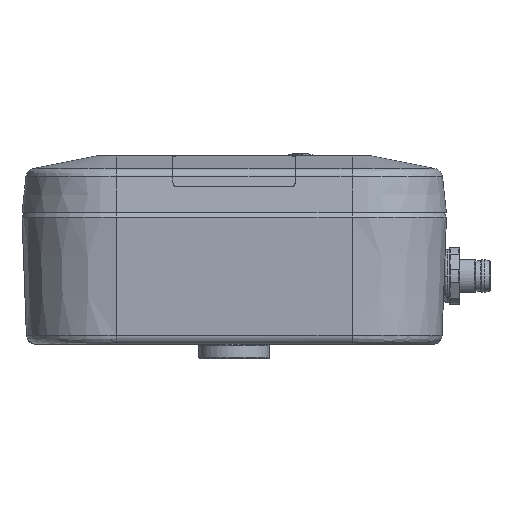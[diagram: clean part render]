
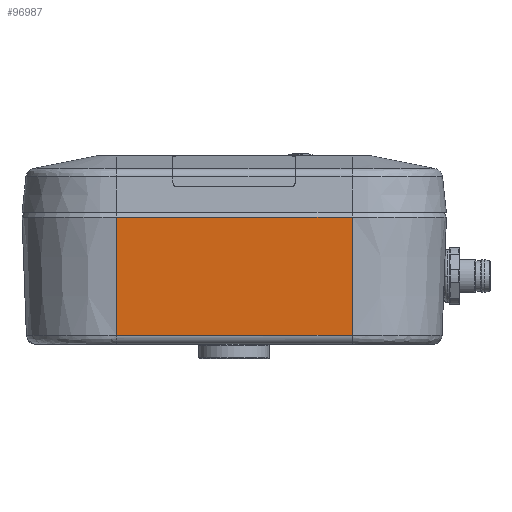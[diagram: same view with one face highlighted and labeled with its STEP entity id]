
A CAD part, left-side view. The second image highlights one B-rep face of the part: STEP entity #96987.
In plain terms, the highlighted planar face has unit normal (-0.999, 0, -0.037).
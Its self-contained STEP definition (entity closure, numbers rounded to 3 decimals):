
#805 = CARTESIAN_POINT ( 'NONE',  ( -65.022, -15.049, 7.268 ) ) ;
#6972 = VERTEX_POINT ( 'NONE', #805 ) ;
#13396 = CARTESIAN_POINT ( 'NONE',  ( -65.022, 34.951, 7.268 ) ) ;
#13555 = ORIENTED_EDGE ( 'NONE', *, *, #132260, .T. ) ;
#14215 = VECTOR ( 'NONE', #46323, 1000. ) ;
#15407 = VERTEX_POINT ( 'NONE', #30707 ) ;
#15644 = DIRECTION ( 'NONE',  ( -0.037, 0., 0.999 ) ) ;
#22769 = AXIS2_PLACEMENT_3D ( 'NONE', #89418, #104721, #151394 ) ;
#23774 = EDGE_CURVE ( 'NONE', #15407, #6972, #71164, .T. ) ;
#30707 = CARTESIAN_POINT ( 'NONE',  ( -65.022, 34.951, 7.268 ) ) ;
#32551 = DIRECTION ( 'NONE',  ( -0.037, 0., 0.999 ) ) ;
#32600 = VERTEX_POINT ( 'NONE', #133809 ) ;
#38270 = ORIENTED_EDGE ( 'NONE', *, *, #58941, .F. ) ;
#40866 = FACE_OUTER_BOUND ( 'NONE', #46922, .T. ) ;
#46323 = DIRECTION ( 'NONE',  ( 0., 1., 0. ) ) ;
#46922 = EDGE_LOOP ( 'NONE', ( #13555, #72468, #38270, #131896 ) ) ;
#50286 = CARTESIAN_POINT ( 'NONE',  ( -65.022, 34.951, 7.268 ) ) ;
#58941 = EDGE_CURVE ( 'NONE', #32600, #15407, #122490, .T. ) ;
#61174 = VECTOR ( 'NONE', #72681, 1000. ) ;
#65536 = PLANE ( 'NONE',  #22769 ) ;
#71164 = LINE ( 'NONE', #13396, #61174 ) ;
#72468 = ORIENTED_EDGE ( 'NONE', *, *, #23774, .F. ) ;
#72681 = DIRECTION ( 'NONE',  ( 0., -1., 0. ) ) ;
#79572 = CARTESIAN_POINT ( 'NONE',  ( -64.094, -15.049, -17.806 ) ) ;
#81746 = VECTOR ( 'NONE', #32551, 1000. ) ;
#83081 = VECTOR ( 'NONE', #15644, 1000. ) ;
#89418 = CARTESIAN_POINT ( 'NONE',  ( -65.022, 34.951, 7.268 ) ) ;
#96987 = ADVANCED_FACE ( 'NONE', ( #40866 ), #65536, .F. ) ;
#104721 = DIRECTION ( 'NONE',  ( 0.999, 0., 0.037 ) ) ;
#104791 = LINE ( 'NONE', #129332, #14215 ) ;
#122300 = EDGE_CURVE ( 'NONE', #143816, #32600, #104791, .T. ) ;
#122490 = LINE ( 'NONE', #50286, #83081 ) ;
#127186 = CARTESIAN_POINT ( 'NONE',  ( -64.558, -15.049, -5.269 ) ) ;
#129332 = CARTESIAN_POINT ( 'NONE',  ( -64.094, 22.451, -17.806 ) ) ;
#131896 = ORIENTED_EDGE ( 'NONE', *, *, #122300, .F. ) ;
#132260 = EDGE_CURVE ( 'NONE', #143816, #6972, #137873, .T. ) ;
#133809 = CARTESIAN_POINT ( 'NONE',  ( -64.094, 34.951, -17.806 ) ) ;
#137873 = LINE ( 'NONE', #127186, #81746 ) ;
#143816 = VERTEX_POINT ( 'NONE', #79572 ) ;
#151394 = DIRECTION ( 'NONE',  ( -0.037, 0., 0.999 ) ) ;
